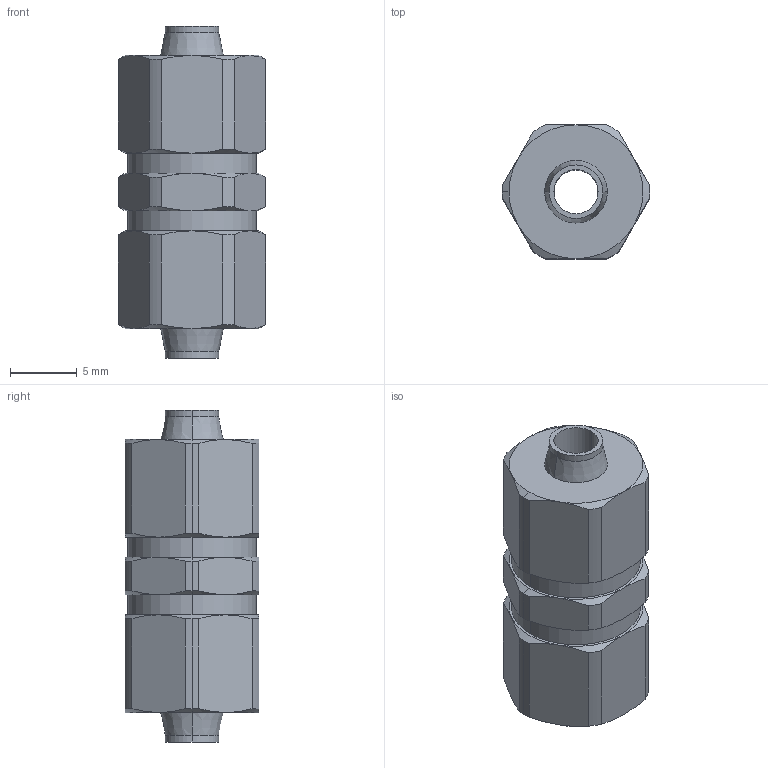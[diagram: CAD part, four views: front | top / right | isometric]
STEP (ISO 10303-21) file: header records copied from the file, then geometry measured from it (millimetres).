
FILE_DESCRIPTION (( 'STEP AP214' ), '1' );
FILE_NAME ('KFG2H0604-00.step', '2019-04-12T22:10:00', ( '' ), ( '' ), 'SwSTEP 2.0', 'SolidWorks 2019', '' );
FILE_SCHEMA (( 'AUTOMOTIVE_DESIGN' ));
Length unit declared in the file: millimetre
Products named in the file (2): KFG2H0604-00; KFG2H0604-00_KFG2H(2)_0604-00
Assembly tree (1 placements, depth 2):
  KFG2H0604-00
    KFG2H0604-00_KFG2H(2)_0604-00
Bounding box: 11 x 10 x 24.8 mm (x, y, z)
Volume: 1555.7 mm3; surface area: 1172.3 mm2
Topology: 1 solids, 1 shells, 103 faces, 241 edges, 146 vertices
Faces by surface type: cone 46, cylinder 31, plane 26
Entity records: 3171 total; most frequent: CARTESIAN_POINT 806, DIRECTION 493, ORIENTED_EDGE 482, EDGE_CURVE 241, AXIS2_PLACEMENT_3D 217, VERTEX_POINT 146, EDGE_LOOP 111, CIRCLE 110
